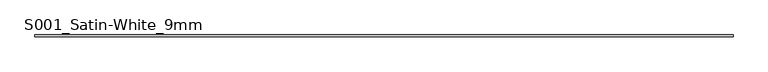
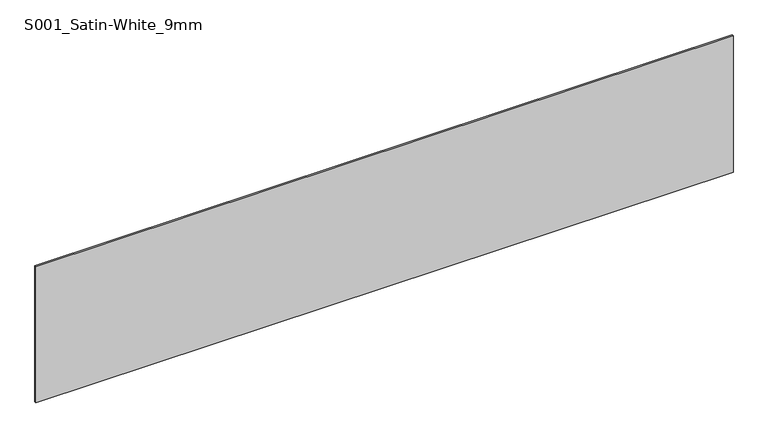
"""IFC4 building model written with IfcOpenShell, lengths in millimetres: plate geometry, Curtain-Panels_Outdoor-Material_HI-MACS_Solids : S001_Satin-White_9mm."""

from ifc_helpers import new_model, si_unit, origin, origin_with_axes, place, context, project, spatial, polyline, outline, extrude, source, transform, mapped, element, save


def s001_satin_white_9mm_59857be9(model_context):
    return source(origin(), model_context, "Body", "SweptSolid", [
        extrude(outline(polyline([(1840.0, 4.5), (1840.0, -4.5), (-1840.0, -4.5), (-1840.0, 4.5), (1840.0, 4.5)])), origin_with_axes(), (0.0, 0.0, 1.0), 760.0),
    ])


if __name__ == "__main__":
    model = new_model("IFC4")
    model_context = context("Model", 3, world=origin())
    ifc_project = project(units=[si_unit("LENGTHUNIT", "METRE", prefix="MILLI")], contexts=[model_context])
    site = spatial("IfcSite", under=ifc_project)
    building = spatial("IfcBuilding", under=site)
    placement = place(None, origin())
    s001_satin_white_9mm_shape = s001_satin_white_9mm_59857be9(model_context)
    element("IfcPlate", 1, ObjectType="Curtain-Panels_Outdoor-Material_HI-MACS_Solids : S001_Satin-White_9mm", at=placement, inside=building, context=model_context, shape_type="MappedRepresentation", body=[
        mapped(s001_satin_white_9mm_shape, transform((0.0, 0.0, 0.0), x_axis=(1.0, 0.0, 0.0), y_axis=(0.0, 1.0, 0.0), z_axis=(0.0, 0.0, 1.0))),
    ])
    save(model, "model.ifc")
